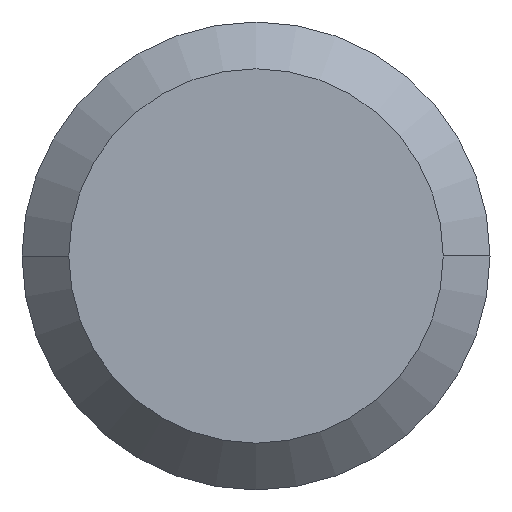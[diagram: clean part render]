
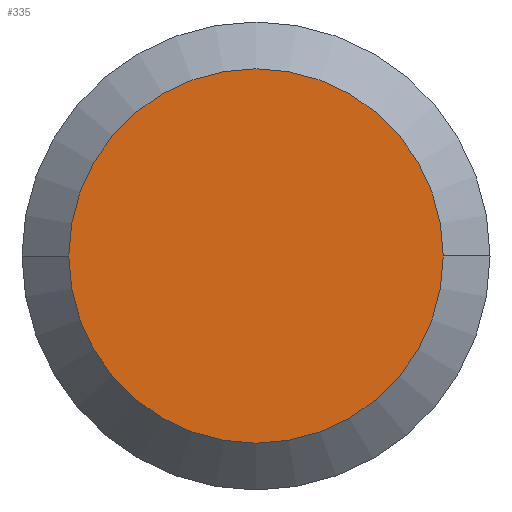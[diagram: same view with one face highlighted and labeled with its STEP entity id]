
A CAD part, left-side view. The second image highlights one B-rep face of the part: STEP entity #335.
In plain terms, the highlighted planar face has unit normal (-1, 0, 0).
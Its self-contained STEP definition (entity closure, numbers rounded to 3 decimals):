
#19 = DIRECTION ( 'NONE',  ( 1., 0., 0. ) ) ;
#27 = VERTEX_POINT ( 'NONE', #35 ) ;
#35 = CARTESIAN_POINT ( 'NONE',  ( 0., -1.2, 0. ) ) ;
#37 = CIRCLE ( 'NONE', #146, 1.2 ) ;
#45 = AXIS2_PLACEMENT_3D ( 'NONE', #48, #19, #100 ) ;
#48 = CARTESIAN_POINT ( 'NONE',  ( 0., 0., 0. ) ) ;
#87 = AXIS2_PLACEMENT_3D ( 'NONE', #128, #284, #308 ) ;
#100 = DIRECTION ( 'NONE',  ( 0., 1., 0. ) ) ;
#123 = ORIENTED_EDGE ( 'NONE', *, *, #152, .F. ) ;
#128 = CARTESIAN_POINT ( 'NONE',  ( 0., 0., 0. ) ) ;
#134 = ORIENTED_EDGE ( 'NONE', *, *, #341, .F. ) ;
#146 = AXIS2_PLACEMENT_3D ( 'NONE', #300, #245, #148 ) ;
#148 = DIRECTION ( 'NONE',  ( 0., 1., 0. ) ) ;
#152 = EDGE_CURVE ( 'NONE', #326, #27, #37, .T. ) ;
#166 = PLANE ( 'NONE',  #87 ) ;
#190 = FACE_OUTER_BOUND ( 'NONE', #221, .T. ) ;
#214 = CARTESIAN_POINT ( 'NONE',  ( 0., 1.2, 0. ) ) ;
#221 = EDGE_LOOP ( 'NONE', ( #123, #134 ) ) ;
#245 = DIRECTION ( 'NONE',  ( 1., 0., 0. ) ) ;
#284 = DIRECTION ( 'NONE',  ( -1., 0., 0. ) ) ;
#300 = CARTESIAN_POINT ( 'NONE',  ( 0., 0., 0. ) ) ;
#304 = CIRCLE ( 'NONE', #45, 1.2 ) ;
#308 = DIRECTION ( 'NONE',  ( 0., -1., 0. ) ) ;
#326 = VERTEX_POINT ( 'NONE', #214 ) ;
#335 = ADVANCED_FACE ( 'NONE', ( #190 ), #166, .T. ) ;
#341 = EDGE_CURVE ( 'NONE', #27, #326, #304, .T. ) ;
